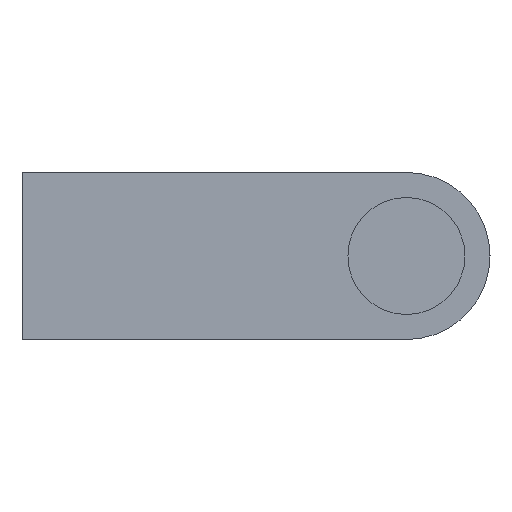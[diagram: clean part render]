
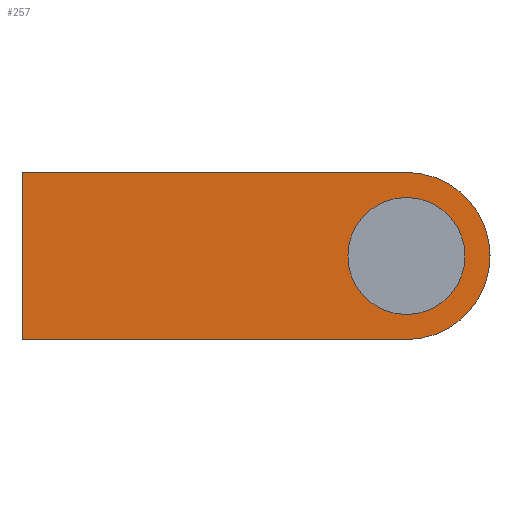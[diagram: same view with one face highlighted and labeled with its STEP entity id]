
A CAD part, left-side view. The second image highlights one B-rep face of the part: STEP entity #257.
In plain terms, the highlighted planar face has unit normal (-1, 0, 0).
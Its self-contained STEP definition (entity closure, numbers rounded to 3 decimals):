
#187 = VERTEX_POINT( '', #444 );
#199 = EDGE_CURVE( '', #201, #235, #456, .T. );
#201 = VERTEX_POINT( '', #458 );
#227 = EDGE_CURVE( '', #235, #311, #488, .T. );
#233 = EDGE_CURVE( '', #311, #317, #495, .T. );
#235 = VERTEX_POINT( '', #497 );
#257 = ADVANCED_FACE( '', ( #522, #523 ), #524, .F. );
#275 = EDGE_CURVE( '', #313, #187, #543, .T. );
#311 = VERTEX_POINT( '', #584 );
#313 = VERTEX_POINT( '', #586 );
#317 = VERTEX_POINT( '', #591 );
#323 = EDGE_CURVE( '', #187, #313, #598, .T. );
#359 = EDGE_CURVE( '', #317, #201, #640, .T. );
#444 = CARTESIAN_POINT( '', ( -3.5, -23., -3.5 ) );
#456 = LINE( '', #753, #754 );
#458 = CARTESIAN_POINT( '', ( -3.5, 0., 5. ) );
#488 = CIRCLE( '', #795, 5. );
#495 = LINE( '', #803, #804 );
#497 = CARTESIAN_POINT( '', ( -3.5, -23., 5. ) );
#522 = FACE_OUTER_BOUND( '', #837, .T. );
#523 = FACE_BOUND( '', #838, .T. );
#524 = PLANE( '', #839 );
#543 = CIRCLE( '', #869, 3.5 );
#584 = CARTESIAN_POINT( '', ( -3.5, -23., -5. ) );
#586 = CARTESIAN_POINT( '', ( -3.5, -23., 3.5 ) );
#591 = CARTESIAN_POINT( '', ( -3.5, 0., -5. ) );
#598 = CIRCLE( '', #938, 3.5 );
#640 = LINE( '', #994, #995 );
#753 = CARTESIAN_POINT( '', ( -3.5, 0., 5. ) );
#754 = VECTOR( '', #1085, 1. );
#795 = AXIS2_PLACEMENT_3D( '', #1126, #1127, #1128 );
#803 = CARTESIAN_POINT( '', ( -3.5, -23., -5. ) );
#804 = VECTOR( '', #1137, 1. );
#837 = EDGE_LOOP( '', ( #1165, #1166, #1167, #1168 ) );
#838 = EDGE_LOOP( '', ( #1169, #1170 ) );
#839 = AXIS2_PLACEMENT_3D( '', #1171, #1172, #1173 );
#869 = AXIS2_PLACEMENT_3D( '', #1195, #1196, #1197 );
#938 = AXIS2_PLACEMENT_3D( '', #1257, #1258, #1259 );
#994 = CARTESIAN_POINT( '', ( -3.5, 0., -5. ) );
#995 = VECTOR( '', #1318, 1. );
#1085 = DIRECTION( '', ( 0., -1., 0. ) );
#1126 = CARTESIAN_POINT( '', ( -3.5, -23., 0. ) );
#1127 = DIRECTION( '', ( 1., 0., 0. ) );
#1128 = DIRECTION( '', ( 0., 0., 1. ) );
#1137 = DIRECTION( '', ( 0., 1., 0. ) );
#1165 = ORIENTED_EDGE( '', *, *, #233, .F. );
#1166 = ORIENTED_EDGE( '', *, *, #227, .F. );
#1167 = ORIENTED_EDGE( '', *, *, #199, .F. );
#1168 = ORIENTED_EDGE( '', *, *, #359, .F. );
#1169 = ORIENTED_EDGE( '', *, *, #275, .F. );
#1170 = ORIENTED_EDGE( '', *, *, #323, .F. );
#1171 = CARTESIAN_POINT( '', ( -3.5, 0., 0. ) );
#1172 = DIRECTION( '', ( 1., 0., 0. ) );
#1173 = DIRECTION( '', ( 0., 0., -1. ) );
#1195 = CARTESIAN_POINT( '', ( -3.5, -23., 0. ) );
#1196 = DIRECTION( '', ( -1., 0., 0. ) );
#1197 = DIRECTION( '', ( 0., 0., -1. ) );
#1257 = CARTESIAN_POINT( '', ( -3.5, -23., 0. ) );
#1258 = DIRECTION( '', ( -1., 0., 0. ) );
#1259 = DIRECTION( '', ( 0., 0., -1. ) );
#1318 = DIRECTION( '', ( 0., 0., 1. ) );
